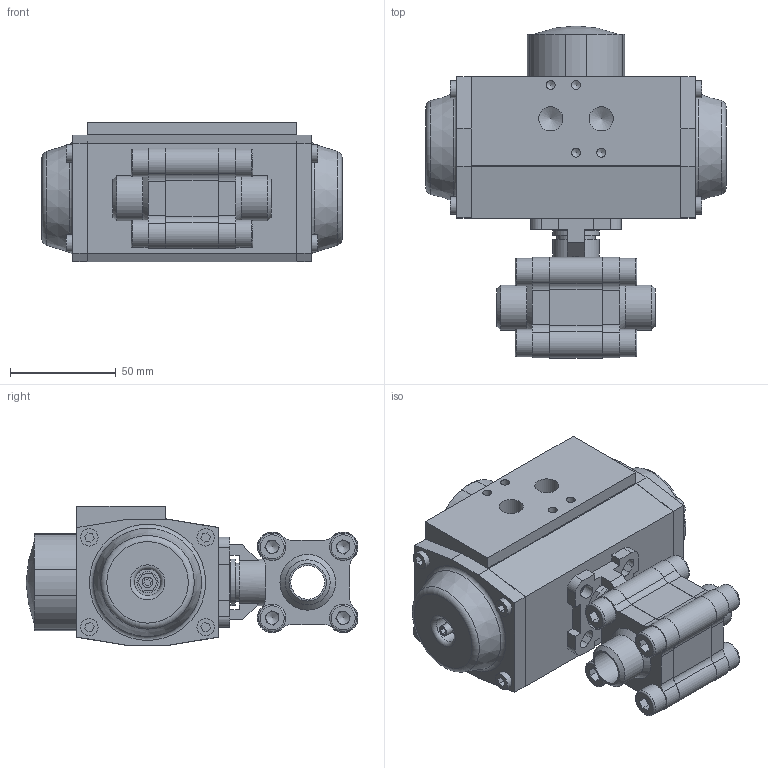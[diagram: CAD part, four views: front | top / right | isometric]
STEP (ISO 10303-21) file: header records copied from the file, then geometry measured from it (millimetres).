
FILE_DESCRIPTION (( 'STEP AP214' ), '1' );
FILE_NAME ('S33D BW DN15 + AP1.STEP', '2025-08-13T08:47:28', ( '' ), ( '' ), 'SwSTEP 2.0', 'SolidWorks 2021', '' );
FILE_SCHEMA (( 'AUTOMOTIVE_DESIGN' ));
Length unit declared in the file: millimetre
Products named in the file (6): S33D BW DN15 + AP1; socket head cap screw_din_DIN 912 M8 x 20 --- 20N; S33D Flens Buttweld DN15; AP1_Default<As Machined>; S33D DN15 Buttweld; S33D KK DN15 PN100
Assembly tree (13 placements, depth 3):
  S33D BW DN15 + AP1
    S33D DN15 Buttweld
      S33D KK DN15 PN100
      S33D Flens Buttweld DN15  x2
      socket head cap screw_din_DIN 912 M8 x 20 --- 20N  x8
    AP1_Default<As Machined>
Bounding box: 142 x 157.08 x 66 mm (x, y, z)
Volume: 663445.9 mm3; surface area: 103606.5 mm2
Topology: 22 solids, 22 shells, 568 faces, 1366 edges, 881 vertices
Faces by surface type: plane 381, cylinder 124, cone 40, torus 22, sphere 1
Full cylindrical faces by diameter (mm): 4.2 x12, 5 x8, 6.6 x4, 8 x8, 8.2 x8, 8.5 x8, 10.06 x1, 11.445 x2, 12.5 x2, 13 x8, 16 x3, 18 x1, 21.3 x2, 22 x2, 25 x1, 27 x1, 45.8 x1
Entity records: 12093 total; most frequent: CARTESIAN_POINT 1940, DIRECTION 1893, ORIENTED_EDGE 1728, EDGE_CURVE 864, LINE 649, VECTOR 649, AXIS2_PLACEMENT_3D 622, VERTEX_POINT 613
